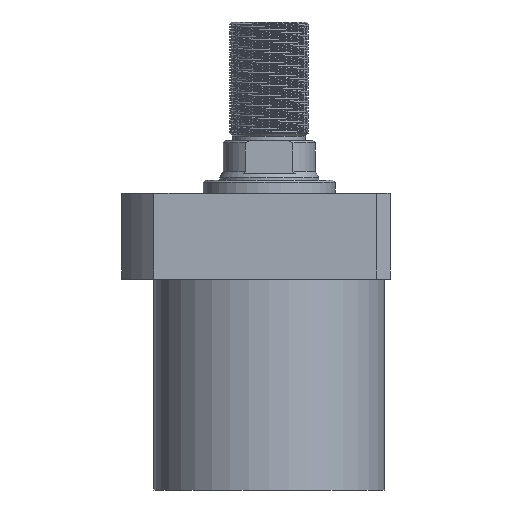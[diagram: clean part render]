
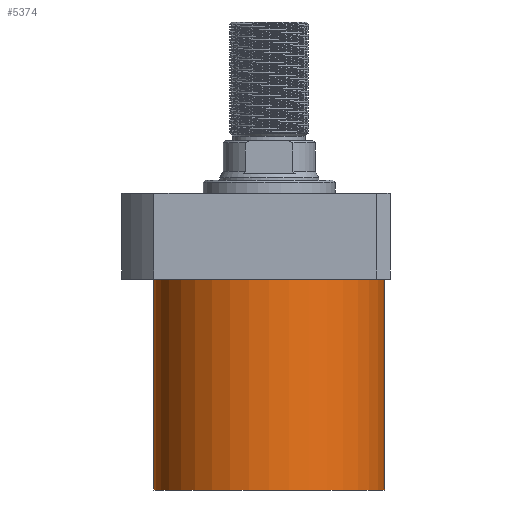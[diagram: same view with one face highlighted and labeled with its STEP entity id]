
A CAD part, front view. The second image highlights one B-rep face of the part: STEP entity #5374.
In plain terms, the highlighted cylindrical face has radius 52.5 mm (diameter 105 mm), a partial arc.
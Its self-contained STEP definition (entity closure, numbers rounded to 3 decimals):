
#325 = VECTOR ( 'NONE', #7769, 1000. ) ;
#397 = CARTESIAN_POINT ( 'NONE',  ( -52.5, 0., -115.5 ) ) ;
#442 = CARTESIAN_POINT ( 'NONE',  ( -52.5, 0., -19.5 ) ) ;
#479 = EDGE_CURVE ( 'NONE', #1073, #4452, #1173, .T. ) ;
#1073 = VERTEX_POINT ( 'NONE', #2720 ) ;
#1092 = DIRECTION ( 'NONE',  ( 1., 0., 0. ) ) ;
#1173 = CIRCLE ( 'NONE', #5501, 52.5 ) ;
#1560 = VERTEX_POINT ( 'NONE', #442 ) ;
#1924 = VERTEX_POINT ( 'NONE', #7204 ) ;
#2071 = DIRECTION ( 'NONE',  ( 0., 0., -1. ) ) ;
#2173 = VECTOR ( 'NONE', #2181, 1000. ) ;
#2181 = DIRECTION ( 'NONE',  ( 0., 0., 1. ) ) ;
#2720 = CARTESIAN_POINT ( 'NONE',  ( 52.5, 0., -115.5 ) ) ;
#3296 = ORIENTED_EDGE ( 'NONE', *, *, #6147, .T. ) ;
#3536 = DIRECTION ( 'NONE',  ( 0., 0., 1. ) ) ;
#3605 = LINE ( 'NONE', #397, #325 ) ;
#3673 = ORIENTED_EDGE ( 'NONE', *, *, #479, .F. ) ;
#3713 = CARTESIAN_POINT ( 'NONE',  ( 0., 0., -19.5 ) ) ;
#3890 = FACE_OUTER_BOUND ( 'NONE', #7746, .T. ) ;
#4325 = DIRECTION ( 'NONE',  ( 1., 0., 0. ) ) ;
#4452 = VERTEX_POINT ( 'NONE', #5573 ) ;
#4860 = AXIS2_PLACEMENT_3D ( 'NONE', #5397, #3536, #1092 ) ;
#5374 = ADVANCED_FACE ( 'NONE', ( #3890 ), #6988, .T. ) ;
#5397 = CARTESIAN_POINT ( 'NONE',  ( 0., 0., -115.5 ) ) ;
#5449 = LINE ( 'NONE', #5875, #2173 ) ;
#5501 = AXIS2_PLACEMENT_3D ( 'NONE', #5761, #2071, #6380 ) ;
#5573 = CARTESIAN_POINT ( 'NONE',  ( -52.5, 0., -115.5 ) ) ;
#5761 = CARTESIAN_POINT ( 'NONE',  ( 0., 0., -115.5 ) ) ;
#5802 = EDGE_CURVE ( 'NONE', #1073, #1924, #5449, .T. ) ;
#5854 = EDGE_CURVE ( 'NONE', #4452, #1560, #3605, .T. ) ;
#5875 = CARTESIAN_POINT ( 'NONE',  ( 52.5, 0., -115.5 ) ) ;
#6147 = EDGE_CURVE ( 'NONE', #1924, #1560, #7777, .T. ) ;
#6380 = DIRECTION ( 'NONE',  ( -1., 0., 0. ) ) ;
#6654 = ORIENTED_EDGE ( 'NONE', *, *, #5854, .F. ) ;
#6988 = CYLINDRICAL_SURFACE ( 'NONE', #4860, 52.5 ) ;
#7204 = CARTESIAN_POINT ( 'NONE',  ( 52.5, 0., -19.5 ) ) ;
#7298 = ORIENTED_EDGE ( 'NONE', *, *, #5802, .T. ) ;
#7440 = AXIS2_PLACEMENT_3D ( 'NONE', #3713, #8033, #4325 ) ;
#7746 = EDGE_LOOP ( 'NONE', ( #6654, #3673, #7298, #3296 ) ) ;
#7769 = DIRECTION ( 'NONE',  ( 0., 0., 1. ) ) ;
#7777 = CIRCLE ( 'NONE', #7440, 52.5 ) ;
#8033 = DIRECTION ( 'NONE',  ( 0., 0., -1. ) ) ;
